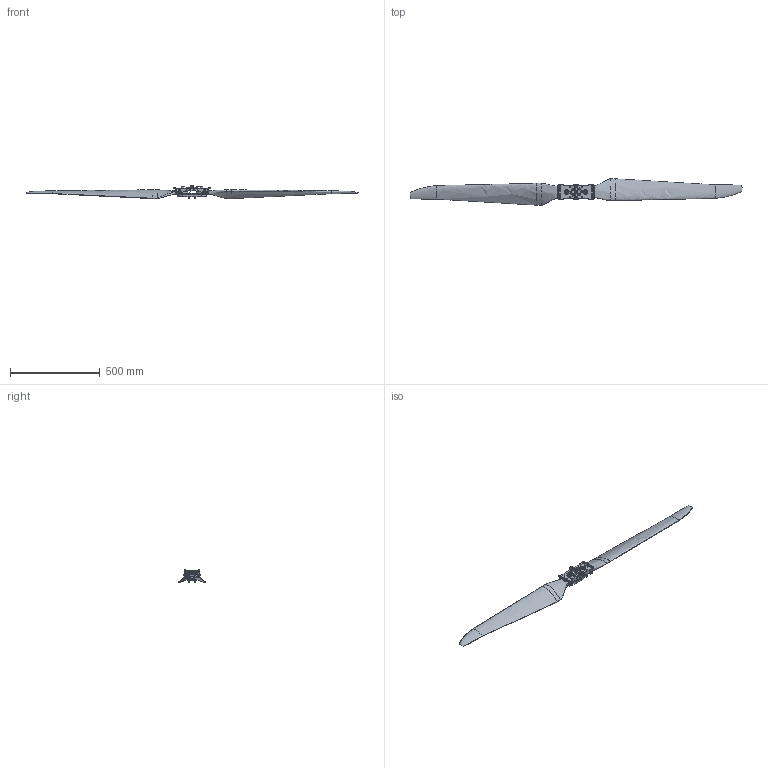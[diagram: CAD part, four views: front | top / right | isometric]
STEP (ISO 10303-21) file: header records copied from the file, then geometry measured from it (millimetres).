
FILE_DESCRIPTION (( 'STEP AP214' ), '1' );
FILE_NAME ('MFC 73X34-CW-3Dͼ-20260922.STEP', '2026-09-22T10:00:22', ( '' ), ( '' ), 'SwSTEP 2.0', 'SolidWorks 2021', '' );
FILE_SCHEMA (( 'AUTOMOTIVE_DESIGN' ));
Length unit declared in the file: millimetre
Products named in the file (15): 111350262AB; 104110181AA^7334殏詁蛌眻_GB_FASTENER_SCREWS_HSHCS M3X10-N; 销钉-D22×D19×38.5-本色; 104110890AA; MFC 73X34-CW-3Dͼ-20260922; 104130300CA; 171070569AB-樓酗; 104111022AA; 111350260AB; 折叠桨-HF73×34-CW-黑色; 104150105AA; 124410519AB; 111350261AB; 124400077BB; 104120128AA
Assembly tree (33 placements, depth 2):
  MFC 73X34-CW-3Dͼ-20260922
    111350261AB
    销钉-D22×D19×38.5-本色  x2
    124400077BB  x4
    104130300CA  x4
    折叠桨-HF73×34-CW-黑色  x2
    104111022AA  x4
    104150105AA
    111350262AB  x2
    104110890AA  x2
    124410519AB  x4
    111350260AB
    104120128AA
    104110181AA^7334殏詁蛌眻_GB_FASTENER_SCREWS_HSHCS M3X10-N  x4
    171070569AB-樓酗
Bounding box: 1854.2 x 147.79 x 75 mm (x, y, z)
Volume: 1710551.2 mm3; surface area: 511787.7 mm2
Topology: 35 solids, 35 shells, 2720 faces, 7014 edges, 4456 vertices
Faces by surface type: plane 1291, cylinder 800, cone 249, bspline 243, torus 102, sphere 35
Entity records: 263280 total; most frequent: CARTESIAN_POINT 224144, ORIENTED_EDGE 8328, DIRECTION 7557, EDGE_CURVE 4164, AXIS2_PLACEMENT_3D 2748, VERTEX_POINT 2629, LINE 2061, VECTOR 2061
